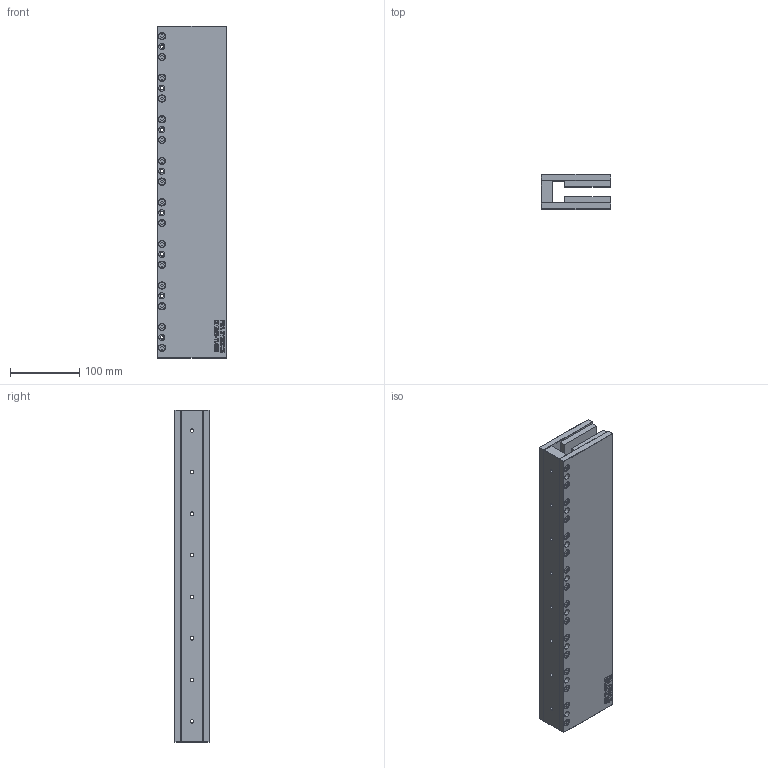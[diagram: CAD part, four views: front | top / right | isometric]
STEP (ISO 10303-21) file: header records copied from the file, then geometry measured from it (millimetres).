
FILE_DESCRIPTION (( 'STEP AP214' ), '1' );
FILE_NAME ('DX65B-TL480.STEP', '2016-05-11T10:21:18', ( '' ), ( '' ), 'SwSTEP 2.0', 'SolidWorks 2015', '' );
FILE_SCHEMA (( 'AUTOMOTIVE_DESIGN' ));
Length unit declared in the file: millimetre
Products named in the file (6): DX65B-TL480-001_TL360; DX65B-TL480; M6X12 DIN7984 STAINLESS STEEL; DX65B-0000-001_CUSTOMER_TL180; DX65B-0000-001_CUSTOMER_TL360; DX65B-TL480-002_TL360
Assembly tree (39 placements, depth 2):
  DX65B-TL480
    DX65B-TL480-001_TL360
    DX65B-TL480-002_TL360  x2
    DX65B-0000-001_CUSTOMER_TL360  x2
    DX65B-0000-001_CUSTOMER_TL180  x2
    M6X12 DIN7984 STAINLESS STEEL  x32
Bounding box: 100 x 50 x 479.5 mm (x, y, z)
Volume: 1712255.3 mm3; surface area: 457781.1 mm2
Topology: 39 solids, 39 shells, 1546 faces, 3686 edges, 2364 vertices
Faces by surface type: plane 808, cylinder 384, bspline 226, cone 64, torus 64
Entity records: 24225 total; most frequent: CARTESIAN_POINT 9506, ORIENTED_EDGE 2850, DIRECTION 2455, EDGE_CURVE 1425, VERTEX_POINT 906, VECTOR 865, LINE 865, AXIS2_PLACEMENT_3D 795
